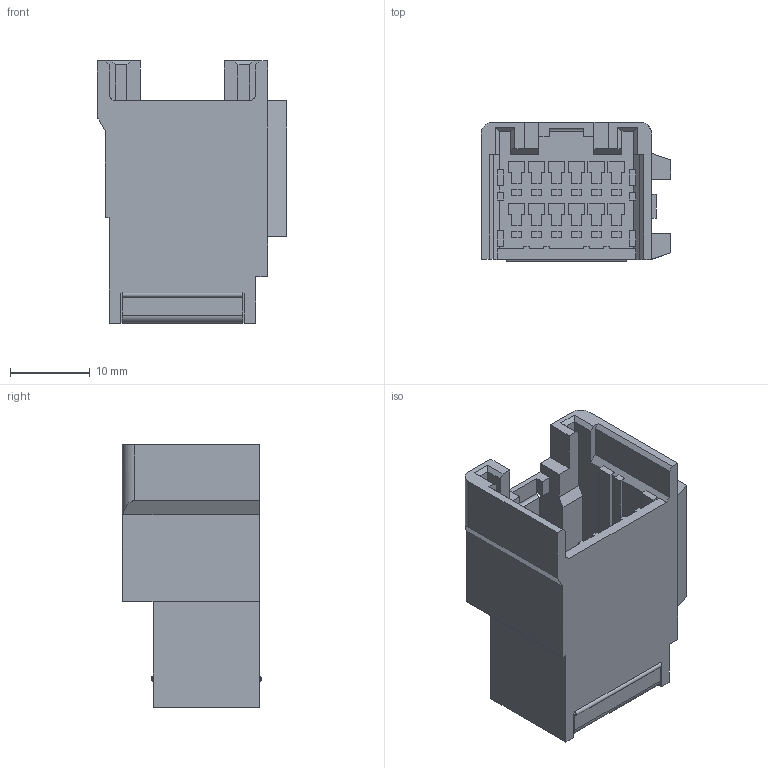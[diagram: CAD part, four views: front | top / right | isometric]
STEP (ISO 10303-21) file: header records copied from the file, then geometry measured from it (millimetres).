
FILE_DESCRIPTION((''),'2;1');
FILE_NAME('C-174058-2','2008-12-31T',('workeradm'),('Tyco Electronics Corporation'),'PRO/ENGINEER BY PARAMETRIC TECHNOLOGY CORPORATION, 2005450','PRO/ENGINEER BY PARAMETRIC TECHNOLOGY CORPORATION, 2005450','');
FILE_SCHEMA(('CONFIG_CONTROL_DESIGN', 'GEOMETRIC_VALIDATION_PROPERTIES_MIM'));
Length unit declared in the file: millimetre
Products named in the file (1): C-174058-2
Bounding box: 23.7 x 17.45 x 32.8 mm (x, y, z)
Volume: 5884.9 mm3; surface area: 4919.1 mm2
Topology: 1 solids, 1 shells, 400 faces, 1083 edges, 716 vertices
Faces by surface type: plane 391, cylinder 9
Entity records: 15711 total; most frequent: CARTESIAN_POINT 2211, ORIENTED_EDGE 2166, DIRECTION 1899, PRESENTATION_STYLE_ASSIGNMENT 1084, STYLED_ITEM 1084, CURVE_STYLE 1083, EDGE_CURVE 1083, VECTOR 1063
